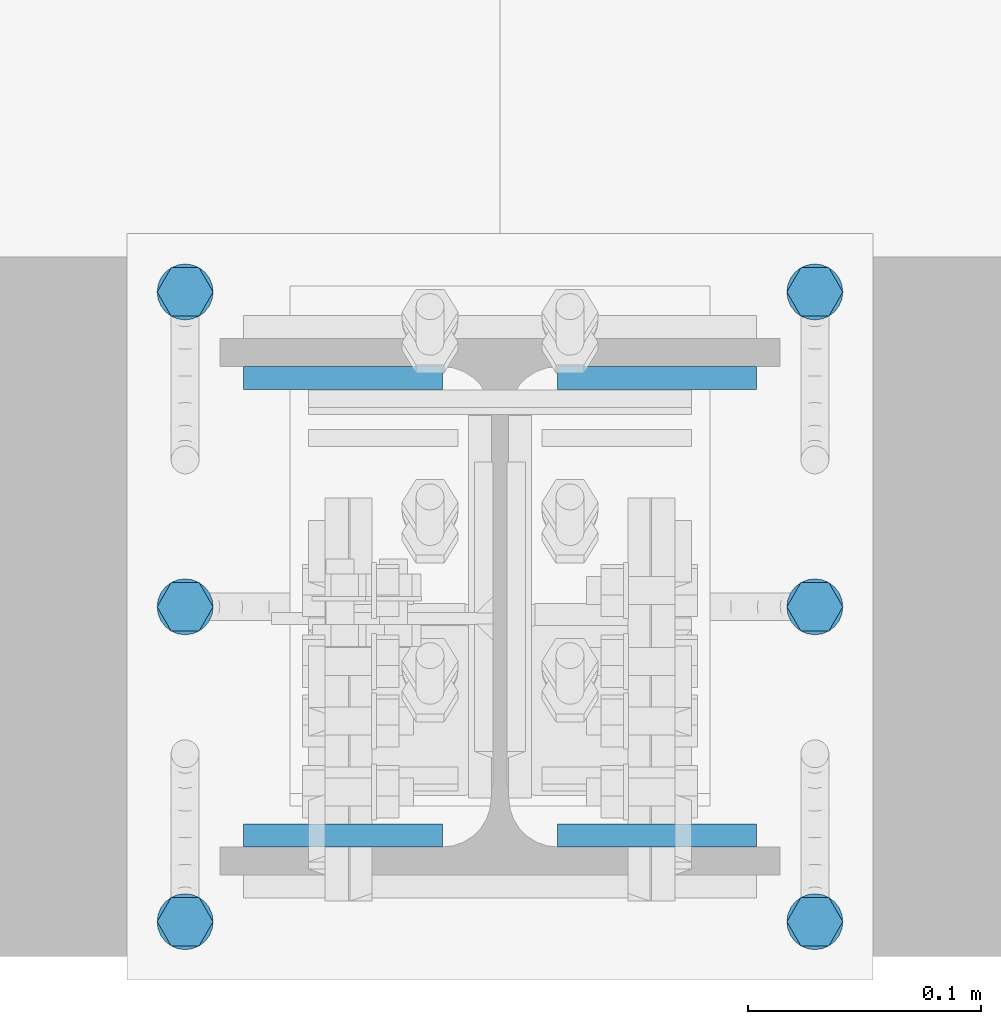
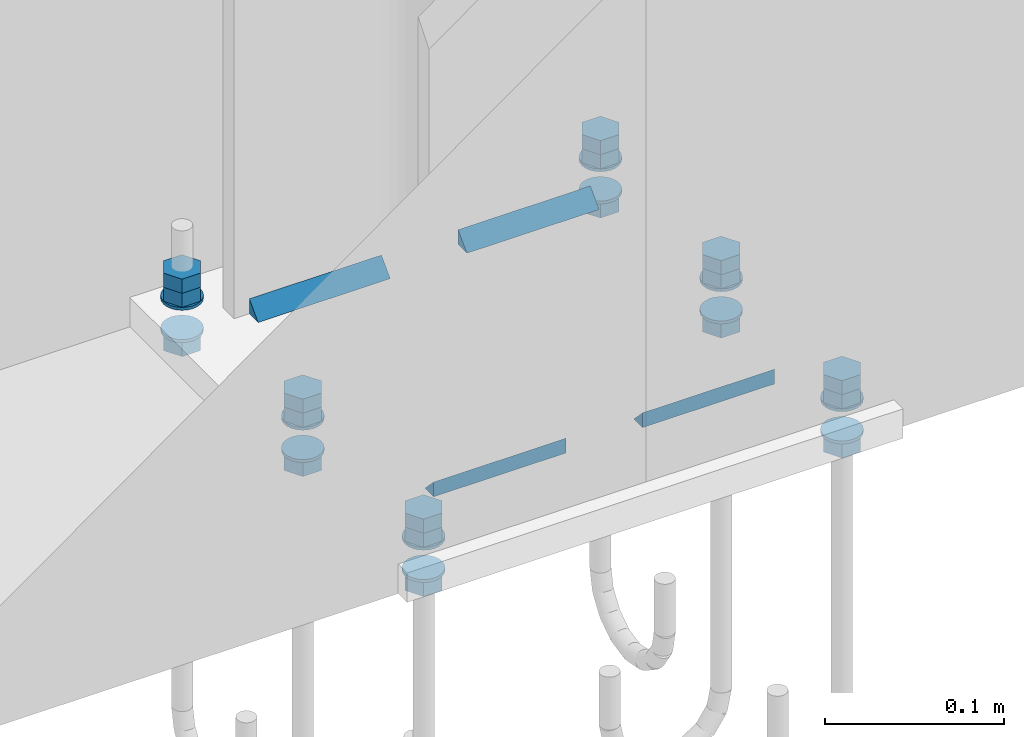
# One storey, part 25 of 72: 30 mechanical fasteners, 8 fasteners.
"""IFC4 building model written with IfcOpenShell, lengths in metres."""

from ifc_helpers import new_model, si_unit, frame, origin_with_axes, place, context, project, spatial, polyline, outline, extrude, type_object, element, save


model = new_model("IFC4")

# Units and contexts
model_context = context("Model", 3, precision=1e-05, world=origin_with_axes())
ifc_project = project(units=[si_unit("LENGTHUNIT", "METRE"), si_unit("AREAUNIT", "SQUARE_METRE"), si_unit("VOLUMEUNIT", "CUBIC_METRE"), si_unit("MASSUNIT", "GRAM", prefix="KILO"), si_unit("TIMEUNIT", "SECOND"), si_unit("PLANEANGLEUNIT", "RADIAN"), si_unit("SOLIDANGLEUNIT", "STERADIAN"), si_unit("THERMODYNAMICTEMPERATUREUNIT", "DEGREE_CELSIUS")], contexts=[model_context])

# Site, building, storey
placement_1 = place(None, origin_with_axes())
site = spatial("IfcSite", under=ifc_project, at=placement_1, Name="Italia", CompositionType="ELEMENT")
building = spatial("IfcBuilding", under=site, at=placement_1, Name="Uffici", CompositionType="ELEMENT")
storey = spatial("IfcBuildingStorey", under=building, at=placement_1, Name="Storey 0", CompositionType="ELEMENT", Elevation=0.0)

# Fasteners
fastener_type_1 = type_object("IfcFastenerType", Name="Collegamenti 0001_0101 0002_0102 0003_0103 0004_0104 0005_0105 0011_0111 0012_0112 0013_0113 0014_0114 0015_0115", PredefinedType="WELD")
placement_2 = place(placement_1, origin_with_axes())
fastener_1_placement = place(placement_2, origin_with_axes())
element("IfcFastener", 1, at=fastener_1_placement, inside=storey, type_object=fastener_type_1, Name="Collegamenti 0001_0101 0002_0102 0003_0103 0004_0104 0005_0105 0011_0111 0012_0112 0013_0113 0014_0114 0015_0115", context=model_context, shape_type="SweptSolid", body=[
    extrude(outline(polyline([(0.0, 0.0), (0.00986816, 0.0101734), (0.00986816, 0.0), (0.0, 0.0)])), frame((3.2297, 0.0931818, 0.01995), z_axis=(1.0, -8.7294403e-08, 0.0), x_axis=(8.7294403e-08, 1.0, 0.0)), (0.0, 0.0, 1.0), 0.08535),
])
fastener_type_2 = type_object("IfcFastenerType", Name="Collegamenti 0001_0101 0002_0102 0003_0103 0004_0104 0005_0105 0011_0111 0012_0112 0013_0113 0014_0114 0015_0115", PredefinedType="WELD")
fastener_2_placement = place(placement_2, origin_with_axes())
element("IfcFastener", 2, at=fastener_2_placement, inside=storey, type_object=fastener_type_2, Name="Collegamenti 0001_0101 0002_0102 0003_0103 0004_0104 0005_0105 0011_0111 0012_0112 0013_0113 0014_0114 0015_0115", context=model_context, shape_type="SweptSolid", body=[
    extrude(outline(polyline([(0.0, 0.0), (0.00986816, 0.0101734), (0.00986816, 0.0), (0.0, 0.0)])), frame((3.31505, -0.0931818, 0.01995), z_axis=(-1.0, 8.7294403e-08, 0.0), x_axis=(-8.7294403e-08, -1.0, 0.0)), (0.0, 0.0, 1.0), 0.08535),
])
fastener_type_3 = type_object("IfcFastenerType", Name="Collegamenti 0001_0101 0002_0102 0003_0103 0004_0104 0005_0105 0011_0111 0012_0112 0013_0113 0014_0114 0015_0115", PredefinedType="WELD")
fastener_3_placement = place(placement_2, origin_with_axes())
element("IfcFastener", 3, at=fastener_3_placement, inside=storey, type_object=fastener_type_3, Name="Collegamenti 0001_0101 0002_0102 0003_0103 0004_0104 0005_0105 0011_0111 0012_0112 0013_0113 0014_0114 0015_0115", context=model_context, shape_type="SweptSolid", body=[
    extrude(outline(polyline([(0.0, 0.0), (0.00986816, 0.0101734), (0.00986816, 0.0), (0.0, 0.0)])), frame((3.1803, -0.0931818, 0.01995), z_axis=(-1.0, 8.7294403e-08, 0.0), x_axis=(-8.7294403e-08, -1.0, 0.0)), (0.0, 0.0, 1.0), 0.08535),
])
fastener_type_4 = type_object("IfcFastenerType", Name="Collegamenti 0001_0101 0002_0102 0003_0103 0004_0104 0005_0105 0011_0111 0012_0112 0013_0113 0014_0114 0015_0115", PredefinedType="WELD")
fastener_4_placement = place(placement_2, origin_with_axes())
element("IfcFastener", 4, at=fastener_4_placement, inside=storey, type_object=fastener_type_4, Name="Collegamenti 0001_0101 0002_0102 0003_0103 0004_0104 0005_0105 0011_0111 0012_0112 0013_0113 0014_0114 0015_0115", context=model_context, shape_type="SweptSolid", body=[
    extrude(outline(polyline([(0.0, 0.0), (0.00986816, 0.0101734), (0.00986816, 0.0), (0.0, 0.0)])), frame((3.09495, 0.0931819, 0.01995), z_axis=(1.0, -8.7294403e-08, 0.0), x_axis=(8.7294403e-08, 1.0, 0.0)), (0.0, 0.0, 1.0), 0.08535),
])
fastener_type_5 = type_object("IfcFastenerType", Name="Collegamenti 0001_0101 0002_0102 0003_0103 0004_0104 0005_0105 0011_0111 0012_0112 0013_0113 0014_0114 0015_0115", PredefinedType="WELD")
fastener_5_placement = place(placement_2, origin_with_axes())
element("IfcFastener", 5, at=fastener_5_placement, inside=storey, type_object=fastener_type_5, Name="Collegamenti 0001_0101 0002_0102 0003_0103 0004_0104 0005_0105 0011_0111 0012_0112 0013_0113 0014_0114 0015_0115", context=model_context, shape_type="SweptSolid", body=[
    extrude(outline(polyline([(0.0, 0.0), (0.00986816, 0.0101734), (0.00986816, 0.0), (0.0, 0.0)])), frame((3.2297, 0.0931818, 0.01995), z_axis=(1.0, -8.7294403e-08, 0.0), x_axis=(8.7294403e-08, 1.0, 0.0)), (0.0, 0.0, 1.0), 0.08535),
])
fastener_type_6 = type_object("IfcFastenerType", Name="Collegamenti 0001_0101 0002_0102 0003_0103 0004_0104 0005_0105 0011_0111 0012_0112 0013_0113 0014_0114 0015_0115", PredefinedType="WELD")
fastener_6_placement = place(placement_2, origin_with_axes())
element("IfcFastener", 6, at=fastener_6_placement, inside=storey, type_object=fastener_type_6, Name="Collegamenti 0001_0101 0002_0102 0003_0103 0004_0104 0005_0105 0011_0111 0012_0112 0013_0113 0014_0114 0015_0115", context=model_context, shape_type="SweptSolid", body=[
    extrude(outline(polyline([(0.0, 0.0), (0.00986816, 0.0101734), (0.00986816, 0.0), (0.0, 0.0)])), frame((3.31505, -0.0931818, 0.01995), z_axis=(-1.0, 8.7294403e-08, 0.0), x_axis=(-8.7294403e-08, -1.0, 0.0)), (0.0, 0.0, 1.0), 0.08535),
])
fastener_type_7 = type_object("IfcFastenerType", Name="Collegamenti 0001_0101 0002_0102 0003_0103 0004_0104 0005_0105 0011_0111 0012_0112 0013_0113 0014_0114 0015_0115", PredefinedType="WELD")
fastener_7_placement = place(placement_2, origin_with_axes())
element("IfcFastener", 7, at=fastener_7_placement, inside=storey, type_object=fastener_type_7, Name="Collegamenti 0001_0101 0002_0102 0003_0103 0004_0104 0005_0105 0011_0111 0012_0112 0013_0113 0014_0114 0015_0115", context=model_context, shape_type="SweptSolid", body=[
    extrude(outline(polyline([(0.0, 0.0), (0.00986816, 0.0101734), (0.00986816, 0.0), (0.0, 0.0)])), frame((3.1803, -0.0931818, 0.01995), z_axis=(-1.0, 8.7294403e-08, 0.0), x_axis=(-8.7294403e-08, -1.0, 0.0)), (0.0, 0.0, 1.0), 0.08535),
])
fastener_type_8 = type_object("IfcFastenerType", Name="Collegamenti 0001_0101 0002_0102 0003_0103 0004_0104 0005_0105 0011_0111 0012_0112 0013_0113 0014_0114 0015_0115", PredefinedType="WELD")
fastener_8_placement = place(placement_2, origin_with_axes())
element("IfcFastener", 8, at=fastener_8_placement, inside=storey, type_object=fastener_type_8, Name="Collegamenti 0001_0101 0002_0102 0003_0103 0004_0104 0005_0105 0011_0111 0012_0112 0013_0113 0014_0114 0015_0115", context=model_context, shape_type="SweptSolid", body=[
    extrude(outline(polyline([(0.0, 0.0), (0.00986816, 0.0101734), (0.00986816, 0.0), (0.0, 0.0)])), frame((3.09495, 0.0931819, 0.01995), z_axis=(1.0, -8.7294403e-08, 0.0), x_axis=(8.7294403e-08, 1.0, 0.0)), (0.0, 0.0, 1.0), 0.08535),
])

# Mechanical fasteners
mechanical_fastener_type_1 = type_object("IfcMechanicalFastenerType", Name="Collegamenti 0001_0101 0002_0102 0003_0103 0004_0104 0005_0105 0011_0111 0012_0112 0013_0113 0014_0114 0015_0115", PredefinedType="BOLT")
mechanical_fastener_1_placement = place(placement_2, origin_with_axes())
element("IfcMechanicalFastener", 9, at=mechanical_fastener_1_placement, inside=storey, type_object=mechanical_fastener_type_1, Name="Collegamenti 0001_0101 0002_0102 0003_0103 0004_0104 0005_0105 0011_0111 0012_0112 0013_0113 0014_0114 0015_0115", NominalDiameter=0.012, context=model_context, shape_type="SweptSolid", body=[
    extrude(outline(polyline([(0.0, 0.0), (0.0, 0.0120001), (0.0103923, 0.0180001), (0.0207846, 0.0120001), (0.0207846, 0.0), (0.0103923, -0.00600004), (0.0, 0.0)])), frame((3.076, -0.145392, 0.022), z_axis=(0.0, 0.0, 1.0), x_axis=(0.0, 1.0, 0.0)), (0.0, 0.0, 1.0), 0.0096),
])
mechanical_fastener_type_2 = type_object("IfcMechanicalFastenerType", Name="Collegamenti 0001_0101 0002_0102 0003_0103 0004_0104 0005_0105 0011_0111 0012_0112 0013_0113 0014_0114 0015_0115", PredefinedType="BOLT")
mechanical_fastener_2_placement = place(placement_2, origin_with_axes())
element("IfcMechanicalFastener", 10, at=mechanical_fastener_2_placement, inside=storey, type_object=mechanical_fastener_type_2, Name="Collegamenti 0001_0101 0002_0102 0003_0103 0004_0104 0005_0105 0011_0111 0012_0112 0013_0113 0014_0114 0015_0115", NominalDiameter=0.012, context=model_context, shape_type="SweptSolid", body=[
    extrude(outline(polyline([(0.0, 0.0), (0.0, 0.0120001), (0.0103923, 0.0180001), (0.0207846, 0.0120001), (0.0207846, 0.0), (0.0103923, -0.00600004), (0.0, 0.0)])), frame((3.076, -0.145392, 0.0316), z_axis=(0.0, 0.0, 1.0), x_axis=(0.0, 1.0, 0.0)), (0.0, 0.0, 1.0), 0.0096),
])
mechanical_fastener_type_3 = type_object("IfcMechanicalFastenerType", Name="Collegamenti 0001_0101 0002_0102 0003_0103 0004_0104 0005_0105 0011_0111 0012_0112 0013_0113 0014_0114 0015_0115", PredefinedType="BOLT")
mechanical_fastener_3_placement = place(placement_2, origin_with_axes())
element("IfcMechanicalFastener", 11, at=mechanical_fastener_3_placement, inside=storey, type_object=mechanical_fastener_type_3, Name="Collegamenti 0001_0101 0002_0102 0003_0103 0004_0104 0005_0105 0011_0111 0012_0112 0013_0113 0014_0114 0015_0115", NominalDiameter=0.012, context=model_context, shape_type="SweptSolid", body=[
    extrude(outline(polyline([(0.0, 0.0), (0.0, 0.0120001), (0.0103923, 0.0180001), (0.0207846, 0.0120001), (0.0207846, 0.0), (0.0103923, -0.00600004), (0.0, 0.0)])), frame((3.076, -0.145392, -0.0116), z_axis=(0.0, 0.0, 1.0), x_axis=(0.0, 1.0, 0.0)), (0.0, 0.0, 1.0), 0.0096),
])
mechanical_fastener_type_4 = type_object("IfcMechanicalFastenerType", Name="Collegamenti 0001_0101 0002_0102 0003_0103 0004_0104 0005_0105 0011_0111 0012_0112 0013_0113 0014_0114 0015_0115", PredefinedType="BOLT")
mechanical_fastener_4_placement = place(placement_2, origin_with_axes())
element("IfcMechanicalFastener", 12, at=mechanical_fastener_4_placement, inside=storey, type_object=mechanical_fastener_type_4, Name="Collegamenti 0001_0101 0002_0102 0003_0103 0004_0104 0005_0105 0011_0111 0012_0112 0013_0113 0014_0114 0015_0115", NominalDiameter=0.024, context=model_context, shape_type="SweptSolid", body=[
    extrude(outline(polyline([(0.0, 0.0), (-0.000408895, -0.00310588), (-0.00160769, -0.00600004), (-0.00351471, -0.00848532), (-0.006, -0.0103922), (-0.00889417, -0.0115912), (-0.012, -0.0120001), (-0.0151058, -0.0115912), (-0.018, -0.0103922), (-0.0204853, -0.00848532), (-0.0223923, -0.00600004), (-0.0235911, -0.00310588), (-0.024, 0.0), (-0.0235911, 0.00310588), (-0.0223923, 0.00600004), (-0.0204853, 0.00848532), (-0.018, 0.0103922), (-0.0151058, 0.0115912), (-0.012, 0.0120001), (-0.00889417, 0.0115912), (-0.006, 0.0103922), (-0.00351471, 0.00848532), (-0.00160769, 0.00600004), (-0.000408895, 0.00310588), (0.0, 0.0)])), frame((3.07, -0.123, 0.02), z_axis=(0.0, 0.0, 1.0), x_axis=(0.0, 1.0, 0.0)), (0.0, 0.0, 1.0), 0.002),
])
mechanical_fastener_type_5 = type_object("IfcMechanicalFastenerType", Name="Collegamenti 0001_0101 0002_0102 0003_0103 0004_0104 0005_0105 0011_0111 0012_0112 0013_0113 0014_0114 0015_0115", PredefinedType="BOLT")
mechanical_fastener_5_placement = place(placement_2, origin_with_axes())
element("IfcMechanicalFastener", 13, at=mechanical_fastener_5_placement, inside=storey, type_object=mechanical_fastener_type_5, Name="Collegamenti 0001_0101 0002_0102 0003_0103 0004_0104 0005_0105 0011_0111 0012_0112 0013_0113 0014_0114 0015_0115", NominalDiameter=0.024, context=model_context, shape_type="SweptSolid", body=[
    extrude(outline(polyline([(0.0, 0.0), (-0.000408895, -0.00310588), (-0.00160769, -0.00600004), (-0.00351471, -0.00848532), (-0.006, -0.0103922), (-0.00889417, -0.0115912), (-0.012, -0.0120001), (-0.0151058, -0.0115912), (-0.018, -0.0103922), (-0.0204853, -0.00848532), (-0.0223923, -0.00600004), (-0.0235911, -0.00310588), (-0.024, 0.0), (-0.0235911, 0.00310588), (-0.0223923, 0.00600004), (-0.0204853, 0.00848532), (-0.018, 0.0103922), (-0.0151058, 0.0115912), (-0.012, 0.0120001), (-0.00889417, 0.0115912), (-0.006, 0.0103922), (-0.00351471, 0.00848532), (-0.00160769, 0.00600004), (-0.000408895, 0.00310588), (0.0, 0.0)])), frame((3.07, -0.123, -0.002), z_axis=(0.0, 0.0, 1.0), x_axis=(0.0, 1.0, 0.0)), (0.0, 0.0, 1.0), 0.002),
])
mechanical_fastener_type_6 = type_object("IfcMechanicalFastenerType", Name="Collegamenti 0001_0101 0002_0102 0003_0103 0004_0104 0005_0105 0011_0111 0012_0112 0013_0113 0014_0114 0015_0115", PredefinedType="BOLT")
mechanical_fastener_6_placement = place(placement_2, origin_with_axes())
element("IfcMechanicalFastener", 14, at=mechanical_fastener_6_placement, inside=storey, type_object=mechanical_fastener_type_6, Name="Collegamenti 0001_0101 0002_0102 0003_0103 0004_0104 0005_0105 0011_0111 0012_0112 0013_0113 0014_0114 0015_0115", NominalDiameter=0.012, context=model_context, shape_type="SweptSolid", body=[
    extrude(outline(polyline([(0.0, 0.0), (0.0, 0.0120001), (0.0103923, 0.0180001), (0.0207846, 0.0120001), (0.0207846, 0.0), (0.0103923, -0.00600004), (0.0, 0.0)])), frame((3.346, -0.145392, 0.022), z_axis=(0.0, 0.0, 1.0), x_axis=(0.0, 1.0, 0.0)), (0.0, 0.0, 1.0), 0.0096),
])
mechanical_fastener_type_7 = type_object("IfcMechanicalFastenerType", Name="Collegamenti 0001_0101 0002_0102 0003_0103 0004_0104 0005_0105 0011_0111 0012_0112 0013_0113 0014_0114 0015_0115", PredefinedType="BOLT")
mechanical_fastener_7_placement = place(placement_2, origin_with_axes())
element("IfcMechanicalFastener", 15, at=mechanical_fastener_7_placement, inside=storey, type_object=mechanical_fastener_type_7, Name="Collegamenti 0001_0101 0002_0102 0003_0103 0004_0104 0005_0105 0011_0111 0012_0112 0013_0113 0014_0114 0015_0115", NominalDiameter=0.012, context=model_context, shape_type="SweptSolid", body=[
    extrude(outline(polyline([(0.0, 0.0), (0.0, 0.0120001), (0.0103923, 0.0180001), (0.0207846, 0.0120001), (0.0207846, 0.0), (0.0103923, -0.00600004), (0.0, 0.0)])), frame((3.346, -0.145392, 0.0316), z_axis=(0.0, 0.0, 1.0), x_axis=(0.0, 1.0, 0.0)), (0.0, 0.0, 1.0), 0.0096),
])
mechanical_fastener_type_8 = type_object("IfcMechanicalFastenerType", Name="Collegamenti 0001_0101 0002_0102 0003_0103 0004_0104 0005_0105 0011_0111 0012_0112 0013_0113 0014_0114 0015_0115", PredefinedType="BOLT")
mechanical_fastener_8_placement = place(placement_2, origin_with_axes())
element("IfcMechanicalFastener", 16, at=mechanical_fastener_8_placement, inside=storey, type_object=mechanical_fastener_type_8, Name="Collegamenti 0001_0101 0002_0102 0003_0103 0004_0104 0005_0105 0011_0111 0012_0112 0013_0113 0014_0114 0015_0115", NominalDiameter=0.012, context=model_context, shape_type="SweptSolid", body=[
    extrude(outline(polyline([(0.0, 0.0), (0.0, 0.0120001), (0.0103923, 0.0180001), (0.0207846, 0.0120001), (0.0207846, 0.0), (0.0103923, -0.00600004), (0.0, 0.0)])), frame((3.346, -0.145392, -0.0116), z_axis=(0.0, 0.0, 1.0), x_axis=(0.0, 1.0, 0.0)), (0.0, 0.0, 1.0), 0.0096),
])
mechanical_fastener_type_9 = type_object("IfcMechanicalFastenerType", Name="Collegamenti 0001_0101 0002_0102 0003_0103 0004_0104 0005_0105 0011_0111 0012_0112 0013_0113 0014_0114 0015_0115", PredefinedType="BOLT")
mechanical_fastener_9_placement = place(placement_2, origin_with_axes())
element("IfcMechanicalFastener", 17, at=mechanical_fastener_9_placement, inside=storey, type_object=mechanical_fastener_type_9, Name="Collegamenti 0001_0101 0002_0102 0003_0103 0004_0104 0005_0105 0011_0111 0012_0112 0013_0113 0014_0114 0015_0115", NominalDiameter=0.024, context=model_context, shape_type="SweptSolid", body=[
    extrude(outline(polyline([(0.0, 0.0), (-0.000408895, -0.00310588), (-0.00160769, -0.00600004), (-0.00351471, -0.00848532), (-0.006, -0.0103922), (-0.00889417, -0.0115912), (-0.012, -0.0120001), (-0.0151058, -0.0115912), (-0.018, -0.0103922), (-0.0204853, -0.00848532), (-0.0223923, -0.00600004), (-0.0235911, -0.00310588), (-0.024, 0.0), (-0.0235911, 0.00310588), (-0.0223923, 0.00600004), (-0.0204853, 0.00848532), (-0.018, 0.0103922), (-0.0151058, 0.0115912), (-0.012, 0.0120001), (-0.00889417, 0.0115912), (-0.006, 0.0103922), (-0.00351471, 0.00848532), (-0.00160769, 0.00600004), (-0.000408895, 0.00310588), (0.0, 0.0)])), frame((3.34, -0.123, 0.02), z_axis=(0.0, 0.0, 1.0), x_axis=(0.0, 1.0, 0.0)), (0.0, 0.0, 1.0), 0.002),
])
mechanical_fastener_type_10 = type_object("IfcMechanicalFastenerType", Name="Collegamenti 0001_0101 0002_0102 0003_0103 0004_0104 0005_0105 0011_0111 0012_0112 0013_0113 0014_0114 0015_0115", PredefinedType="BOLT")
mechanical_fastener_10_placement = place(placement_2, origin_with_axes())
element("IfcMechanicalFastener", 18, at=mechanical_fastener_10_placement, inside=storey, type_object=mechanical_fastener_type_10, Name="Collegamenti 0001_0101 0002_0102 0003_0103 0004_0104 0005_0105 0011_0111 0012_0112 0013_0113 0014_0114 0015_0115", NominalDiameter=0.024, context=model_context, shape_type="SweptSolid", body=[
    extrude(outline(polyline([(0.0, 0.0), (-0.000408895, -0.00310588), (-0.00160769, -0.00600004), (-0.00351471, -0.00848532), (-0.006, -0.0103922), (-0.00889417, -0.0115912), (-0.012, -0.0120001), (-0.0151058, -0.0115912), (-0.018, -0.0103922), (-0.0204853, -0.00848532), (-0.0223923, -0.00600004), (-0.0235911, -0.00310588), (-0.024, 0.0), (-0.0235911, 0.00310588), (-0.0223923, 0.00600004), (-0.0204853, 0.00848532), (-0.018, 0.0103922), (-0.0151058, 0.0115912), (-0.012, 0.0120001), (-0.00889417, 0.0115912), (-0.006, 0.0103922), (-0.00351471, 0.00848532), (-0.00160769, 0.00600004), (-0.000408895, 0.00310588), (0.0, 0.0)])), frame((3.34, -0.123, -0.002), z_axis=(0.0, 0.0, 1.0), x_axis=(0.0, 1.0, 0.0)), (0.0, 0.0, 1.0), 0.002),
])
mechanical_fastener_type_11 = type_object("IfcMechanicalFastenerType", Name="Collegamenti 0001_0101 0002_0102 0003_0103 0004_0104 0005_0105 0011_0111 0012_0112 0013_0113 0014_0114 0015_0115", PredefinedType="BOLT")
mechanical_fastener_11_placement = place(placement_2, origin_with_axes())
element("IfcMechanicalFastener", 19, at=mechanical_fastener_11_placement, inside=storey, type_object=mechanical_fastener_type_11, Name="Collegamenti 0001_0101 0002_0102 0003_0103 0004_0104 0005_0105 0011_0111 0012_0112 0013_0113 0014_0114 0015_0115", NominalDiameter=0.012, context=model_context, shape_type="SweptSolid", body=[
    extrude(outline(polyline([(0.0, 0.0), (0.0, 0.0120001), (0.0103923, 0.0180001), (0.0207846, 0.0120001), (0.0207846, 0.0), (0.0103923, -0.00600004), (0.0, 0.0)])), frame((3.076, -0.0103923, 0.022), z_axis=(0.0, 0.0, 1.0), x_axis=(0.0, 1.0, 0.0)), (0.0, 0.0, 1.0), 0.0096),
])
mechanical_fastener_type_12 = type_object("IfcMechanicalFastenerType", Name="Collegamenti 0001_0101 0002_0102 0003_0103 0004_0104 0005_0105 0011_0111 0012_0112 0013_0113 0014_0114 0015_0115", PredefinedType="BOLT")
mechanical_fastener_12_placement = place(placement_2, origin_with_axes())
element("IfcMechanicalFastener", 20, at=mechanical_fastener_12_placement, inside=storey, type_object=mechanical_fastener_type_12, Name="Collegamenti 0001_0101 0002_0102 0003_0103 0004_0104 0005_0105 0011_0111 0012_0112 0013_0113 0014_0114 0015_0115", NominalDiameter=0.012, context=model_context, shape_type="SweptSolid", body=[
    extrude(outline(polyline([(0.0, 0.0), (0.0, 0.0120001), (0.0103923, 0.0180001), (0.0207846, 0.0120001), (0.0207846, 0.0), (0.0103923, -0.00600004), (0.0, 0.0)])), frame((3.076, -0.0103923, 0.0316), z_axis=(0.0, 0.0, 1.0), x_axis=(0.0, 1.0, 0.0)), (0.0, 0.0, 1.0), 0.0096),
])
mechanical_fastener_type_13 = type_object("IfcMechanicalFastenerType", Name="Collegamenti 0001_0101 0002_0102 0003_0103 0004_0104 0005_0105 0011_0111 0012_0112 0013_0113 0014_0114 0015_0115", PredefinedType="BOLT")
mechanical_fastener_13_placement = place(placement_2, origin_with_axes())
element("IfcMechanicalFastener", 21, at=mechanical_fastener_13_placement, inside=storey, type_object=mechanical_fastener_type_13, Name="Collegamenti 0001_0101 0002_0102 0003_0103 0004_0104 0005_0105 0011_0111 0012_0112 0013_0113 0014_0114 0015_0115", NominalDiameter=0.012, context=model_context, shape_type="SweptSolid", body=[
    extrude(outline(polyline([(0.0, 0.0), (0.0, 0.0120001), (0.0103923, 0.0180001), (0.0207846, 0.0120001), (0.0207846, 0.0), (0.0103923, -0.00600004), (0.0, 0.0)])), frame((3.076, -0.0103923, -0.0116), z_axis=(0.0, 0.0, 1.0), x_axis=(0.0, 1.0, 0.0)), (0.0, 0.0, 1.0), 0.0096),
])
mechanical_fastener_type_14 = type_object("IfcMechanicalFastenerType", Name="Collegamenti 0001_0101 0002_0102 0003_0103 0004_0104 0005_0105 0011_0111 0012_0112 0013_0113 0014_0114 0015_0115", PredefinedType="BOLT")
mechanical_fastener_14_placement = place(placement_2, origin_with_axes())
element("IfcMechanicalFastener", 22, at=mechanical_fastener_14_placement, inside=storey, type_object=mechanical_fastener_type_14, Name="Collegamenti 0001_0101 0002_0102 0003_0103 0004_0104 0005_0105 0011_0111 0012_0112 0013_0113 0014_0114 0015_0115", NominalDiameter=0.024, context=model_context, shape_type="SweptSolid", body=[
    extrude(outline(polyline([(0.0, 0.0), (-0.00040889, -0.00310588), (-0.0016077, -0.00600004), (-0.00351472, -0.00848532), (-0.006, -0.0103922), (-0.00889417, -0.0115912), (-0.012, -0.0120001), (-0.0151058, -0.0115912), (-0.018, -0.0103922), (-0.0204853, -0.00848532), (-0.0223923, -0.00600004), (-0.0235911, -0.00310588), (-0.024, 0.0), (-0.0235911, 0.00310588), (-0.0223923, 0.00600004), (-0.0204853, 0.00848532), (-0.018, 0.0103922), (-0.0151058, 0.0115912), (-0.012, 0.0120001), (-0.00889417, 0.0115912), (-0.006, 0.0103922), (-0.00351472, 0.00848532), (-0.00160769, 0.00600004), (-0.00040889, 0.00310588), (0.0, 0.0)])), frame((3.07, 0.012, 0.02), z_axis=(0.0, 0.0, 1.0), x_axis=(0.0, 1.0, 0.0)), (0.0, 0.0, 1.0), 0.002),
])
mechanical_fastener_type_15 = type_object("IfcMechanicalFastenerType", Name="Collegamenti 0001_0101 0002_0102 0003_0103 0004_0104 0005_0105 0011_0111 0012_0112 0013_0113 0014_0114 0015_0115", PredefinedType="BOLT")
mechanical_fastener_15_placement = place(placement_2, origin_with_axes())
element("IfcMechanicalFastener", 23, at=mechanical_fastener_15_placement, inside=storey, type_object=mechanical_fastener_type_15, Name="Collegamenti 0001_0101 0002_0102 0003_0103 0004_0104 0005_0105 0011_0111 0012_0112 0013_0113 0014_0114 0015_0115", NominalDiameter=0.024, context=model_context, shape_type="SweptSolid", body=[
    extrude(outline(polyline([(0.0, 0.0), (-0.00040889, -0.00310588), (-0.0016077, -0.00600004), (-0.00351472, -0.00848532), (-0.006, -0.0103922), (-0.00889417, -0.0115912), (-0.012, -0.0120001), (-0.0151058, -0.0115912), (-0.018, -0.0103922), (-0.0204853, -0.00848532), (-0.0223923, -0.00600004), (-0.0235911, -0.00310588), (-0.024, 0.0), (-0.0235911, 0.00310588), (-0.0223923, 0.00600004), (-0.0204853, 0.00848532), (-0.018, 0.0103922), (-0.0151058, 0.0115912), (-0.012, 0.0120001), (-0.00889417, 0.0115912), (-0.006, 0.0103922), (-0.00351472, 0.00848532), (-0.00160769, 0.00600004), (-0.00040889, 0.00310588), (0.0, 0.0)])), frame((3.07, 0.012, -0.002), z_axis=(0.0, 0.0, 1.0), x_axis=(0.0, 1.0, 0.0)), (0.0, 0.0, 1.0), 0.002),
])
mechanical_fastener_type_16 = type_object("IfcMechanicalFastenerType", Name="Collegamenti 0001_0101 0002_0102 0003_0103 0004_0104 0005_0105 0011_0111 0012_0112 0013_0113 0014_0114 0015_0115", PredefinedType="BOLT")
mechanical_fastener_16_placement = place(placement_2, origin_with_axes())
element("IfcMechanicalFastener", 24, at=mechanical_fastener_16_placement, inside=storey, type_object=mechanical_fastener_type_16, Name="Collegamenti 0001_0101 0002_0102 0003_0103 0004_0104 0005_0105 0011_0111 0012_0112 0013_0113 0014_0114 0015_0115", NominalDiameter=0.012, context=model_context, shape_type="SweptSolid", body=[
    extrude(outline(polyline([(0.0, 0.0), (0.0, 0.0120001), (0.0103923, 0.0180001), (0.0207846, 0.0120001), (0.0207846, 0.0), (0.0103923, -0.00600004), (0.0, 0.0)])), frame((3.346, -0.0103923, 0.022), z_axis=(0.0, 0.0, 1.0), x_axis=(0.0, 1.0, 0.0)), (0.0, 0.0, 1.0), 0.0096),
])
mechanical_fastener_type_17 = type_object("IfcMechanicalFastenerType", Name="Collegamenti 0001_0101 0002_0102 0003_0103 0004_0104 0005_0105 0011_0111 0012_0112 0013_0113 0014_0114 0015_0115", PredefinedType="BOLT")
mechanical_fastener_17_placement = place(placement_2, origin_with_axes())
element("IfcMechanicalFastener", 25, at=mechanical_fastener_17_placement, inside=storey, type_object=mechanical_fastener_type_17, Name="Collegamenti 0001_0101 0002_0102 0003_0103 0004_0104 0005_0105 0011_0111 0012_0112 0013_0113 0014_0114 0015_0115", NominalDiameter=0.012, context=model_context, shape_type="SweptSolid", body=[
    extrude(outline(polyline([(0.0, 0.0), (0.0, 0.0120001), (0.0103923, 0.0180001), (0.0207846, 0.0120001), (0.0207846, 0.0), (0.0103923, -0.00600004), (0.0, 0.0)])), frame((3.346, -0.0103923, 0.0316), z_axis=(0.0, 0.0, 1.0), x_axis=(0.0, 1.0, 0.0)), (0.0, 0.0, 1.0), 0.0096),
])
mechanical_fastener_type_18 = type_object("IfcMechanicalFastenerType", Name="Collegamenti 0001_0101 0002_0102 0003_0103 0004_0104 0005_0105 0011_0111 0012_0112 0013_0113 0014_0114 0015_0115", PredefinedType="BOLT")
mechanical_fastener_18_placement = place(placement_2, origin_with_axes())
element("IfcMechanicalFastener", 26, at=mechanical_fastener_18_placement, inside=storey, type_object=mechanical_fastener_type_18, Name="Collegamenti 0001_0101 0002_0102 0003_0103 0004_0104 0005_0105 0011_0111 0012_0112 0013_0113 0014_0114 0015_0115", NominalDiameter=0.012, context=model_context, shape_type="SweptSolid", body=[
    extrude(outline(polyline([(0.0, 0.0), (0.0, 0.0120001), (0.0103923, 0.0180001), (0.0207846, 0.0120001), (0.0207846, 0.0), (0.0103923, -0.00600004), (0.0, 0.0)])), frame((3.346, -0.0103923, -0.0116), z_axis=(0.0, 0.0, 1.0), x_axis=(0.0, 1.0, 0.0)), (0.0, 0.0, 1.0), 0.0096),
])
mechanical_fastener_type_19 = type_object("IfcMechanicalFastenerType", Name="Collegamenti 0001_0101 0002_0102 0003_0103 0004_0104 0005_0105 0011_0111 0012_0112 0013_0113 0014_0114 0015_0115", PredefinedType="BOLT")
mechanical_fastener_19_placement = place(placement_2, origin_with_axes())
element("IfcMechanicalFastener", 27, at=mechanical_fastener_19_placement, inside=storey, type_object=mechanical_fastener_type_19, Name="Collegamenti 0001_0101 0002_0102 0003_0103 0004_0104 0005_0105 0011_0111 0012_0112 0013_0113 0014_0114 0015_0115", NominalDiameter=0.024, context=model_context, shape_type="SweptSolid", body=[
    extrude(outline(polyline([(0.0, 0.0), (-0.00040889, -0.00310588), (-0.0016077, -0.00600004), (-0.00351472, -0.00848532), (-0.006, -0.0103922), (-0.00889417, -0.0115912), (-0.012, -0.0120001), (-0.0151058, -0.0115912), (-0.018, -0.0103922), (-0.0204853, -0.00848532), (-0.0223923, -0.00600004), (-0.0235911, -0.00310588), (-0.024, 0.0), (-0.0235911, 0.00310588), (-0.0223923, 0.00600004), (-0.0204853, 0.00848532), (-0.018, 0.0103922), (-0.0151058, 0.0115912), (-0.012, 0.0120001), (-0.00889417, 0.0115912), (-0.006, 0.0103922), (-0.00351472, 0.00848532), (-0.00160769, 0.00600004), (-0.00040889, 0.00310588), (0.0, 0.0)])), frame((3.34, 0.012, 0.02), z_axis=(0.0, 0.0, 1.0), x_axis=(0.0, 1.0, 0.0)), (0.0, 0.0, 1.0), 0.002),
])
mechanical_fastener_type_20 = type_object("IfcMechanicalFastenerType", Name="Collegamenti 0001_0101 0002_0102 0003_0103 0004_0104 0005_0105 0011_0111 0012_0112 0013_0113 0014_0114 0015_0115", PredefinedType="BOLT")
mechanical_fastener_20_placement = place(placement_2, origin_with_axes())
element("IfcMechanicalFastener", 28, at=mechanical_fastener_20_placement, inside=storey, type_object=mechanical_fastener_type_20, Name="Collegamenti 0001_0101 0002_0102 0003_0103 0004_0104 0005_0105 0011_0111 0012_0112 0013_0113 0014_0114 0015_0115", NominalDiameter=0.024, context=model_context, shape_type="SweptSolid", body=[
    extrude(outline(polyline([(0.0, 0.0), (-0.00040889, -0.00310588), (-0.0016077, -0.00600004), (-0.00351472, -0.00848532), (-0.006, -0.0103922), (-0.00889417, -0.0115912), (-0.012, -0.0120001), (-0.0151058, -0.0115912), (-0.018, -0.0103922), (-0.0204853, -0.00848532), (-0.0223923, -0.00600004), (-0.0235911, -0.00310588), (-0.024, 0.0), (-0.0235911, 0.00310588), (-0.0223923, 0.00600004), (-0.0204853, 0.00848532), (-0.018, 0.0103922), (-0.0151058, 0.0115912), (-0.012, 0.0120001), (-0.00889417, 0.0115912), (-0.006, 0.0103922), (-0.00351472, 0.00848532), (-0.00160769, 0.00600004), (-0.00040889, 0.00310588), (0.0, 0.0)])), frame((3.34, 0.012, -0.002), z_axis=(0.0, 0.0, 1.0), x_axis=(0.0, 1.0, 0.0)), (0.0, 0.0, 1.0), 0.002),
])
mechanical_fastener_type_21 = type_object("IfcMechanicalFastenerType", Name="Collegamenti 0001_0101 0002_0102 0003_0103 0004_0104 0005_0105 0011_0111 0012_0112 0013_0113 0014_0114 0015_0115", PredefinedType="BOLT")
mechanical_fastener_21_placement = place(placement_2, origin_with_axes())
element("IfcMechanicalFastener", 29, at=mechanical_fastener_21_placement, inside=storey, type_object=mechanical_fastener_type_21, Name="Collegamenti 0001_0101 0002_0102 0003_0103 0004_0104 0005_0105 0011_0111 0012_0112 0013_0113 0014_0114 0015_0115", NominalDiameter=0.012, context=model_context, shape_type="SweptSolid", body=[
    extrude(outline(polyline([(0.0, 0.0), (0.0, 0.0120001), (0.0103923, 0.0180001), (0.0207846, 0.0120001), (0.0207846, 0.0), (0.0103923, -0.00600004), (0.0, 0.0)])), frame((3.076, 0.124608, 0.022), z_axis=(0.0, 0.0, 1.0), x_axis=(0.0, 1.0, 0.0)), (0.0, 0.0, 1.0), 0.0096),
])
mechanical_fastener_type_22 = type_object("IfcMechanicalFastenerType", Name="Collegamenti 0001_0101 0002_0102 0003_0103 0004_0104 0005_0105 0011_0111 0012_0112 0013_0113 0014_0114 0015_0115", PredefinedType="BOLT")
mechanical_fastener_22_placement = place(placement_2, origin_with_axes())
element("IfcMechanicalFastener", 30, at=mechanical_fastener_22_placement, inside=storey, type_object=mechanical_fastener_type_22, Name="Collegamenti 0001_0101 0002_0102 0003_0103 0004_0104 0005_0105 0011_0111 0012_0112 0013_0113 0014_0114 0015_0115", NominalDiameter=0.012, context=model_context, shape_type="SweptSolid", body=[
    extrude(outline(polyline([(0.0, 0.0), (0.0, 0.0120001), (0.0103923, 0.0180001), (0.0207846, 0.0120001), (0.0207846, 0.0), (0.0103923, -0.00600004), (0.0, 0.0)])), frame((3.076, 0.124608, 0.0316), z_axis=(0.0, 0.0, 1.0), x_axis=(0.0, 1.0, 0.0)), (0.0, 0.0, 1.0), 0.0096),
])
mechanical_fastener_type_23 = type_object("IfcMechanicalFastenerType", Name="Collegamenti 0001_0101 0002_0102 0003_0103 0004_0104 0005_0105 0011_0111 0012_0112 0013_0113 0014_0114 0015_0115", PredefinedType="BOLT")
mechanical_fastener_23_placement = place(placement_2, origin_with_axes())
element("IfcMechanicalFastener", 31, at=mechanical_fastener_23_placement, inside=storey, type_object=mechanical_fastener_type_23, Name="Collegamenti 0001_0101 0002_0102 0003_0103 0004_0104 0005_0105 0011_0111 0012_0112 0013_0113 0014_0114 0015_0115", NominalDiameter=0.012, context=model_context, shape_type="SweptSolid", body=[
    extrude(outline(polyline([(0.0, 0.0), (0.0, 0.0120001), (0.0103923, 0.0180001), (0.0207846, 0.0120001), (0.0207846, 0.0), (0.0103923, -0.00600004), (0.0, 0.0)])), frame((3.076, 0.124608, -0.0116), z_axis=(0.0, 0.0, 1.0), x_axis=(0.0, 1.0, 0.0)), (0.0, 0.0, 1.0), 0.0096),
])
mechanical_fastener_type_24 = type_object("IfcMechanicalFastenerType", Name="Collegamenti 0001_0101 0002_0102 0003_0103 0004_0104 0005_0105 0011_0111 0012_0112 0013_0113 0014_0114 0015_0115", PredefinedType="BOLT")
mechanical_fastener_24_placement = place(placement_2, origin_with_axes())
element("IfcMechanicalFastener", 32, at=mechanical_fastener_24_placement, inside=storey, type_object=mechanical_fastener_type_24, Name="Collegamenti 0001_0101 0002_0102 0003_0103 0004_0104 0005_0105 0011_0111 0012_0112 0013_0113 0014_0114 0015_0115", NominalDiameter=0.024, context=model_context, shape_type="SweptSolid", body=[
    extrude(outline(polyline([(0.0, 0.0), (-0.000408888, -0.00310588), (-0.00160769, -0.00600004), (-0.00351471, -0.00848532), (-0.006, -0.0103922), (-0.00889416, -0.0115912), (-0.012, -0.0120001), (-0.0151058, -0.0115912), (-0.018, -0.0103922), (-0.0204853, -0.00848532), (-0.0223923, -0.00600004), (-0.0235911, -0.00310588), (-0.024, 0.0), (-0.0235911, 0.00310588), (-0.0223923, 0.00600004), (-0.0204853, 0.00848532), (-0.018, 0.0103922), (-0.0151058, 0.0115912), (-0.012, 0.0120001), (-0.00889416, 0.0115912), (-0.006, 0.0103922), (-0.00351471, 0.00848532), (-0.00160769, 0.00600004), (-0.000408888, 0.00310588), (0.0, 0.0)])), frame((3.07, 0.147, 0.02), z_axis=(0.0, 0.0, 1.0), x_axis=(0.0, 1.0, 0.0)), (0.0, 0.0, 1.0), 0.002),
])
mechanical_fastener_type_25 = type_object("IfcMechanicalFastenerType", Name="Collegamenti 0001_0101 0002_0102 0003_0103 0004_0104 0005_0105 0011_0111 0012_0112 0013_0113 0014_0114 0015_0115", PredefinedType="BOLT")
mechanical_fastener_25_placement = place(placement_2, origin_with_axes())
element("IfcMechanicalFastener", 33, at=mechanical_fastener_25_placement, inside=storey, type_object=mechanical_fastener_type_25, Name="Collegamenti 0001_0101 0002_0102 0003_0103 0004_0104 0005_0105 0011_0111 0012_0112 0013_0113 0014_0114 0015_0115", NominalDiameter=0.024, context=model_context, shape_type="SweptSolid", body=[
    extrude(outline(polyline([(0.0, 0.0), (-0.000408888, -0.00310588), (-0.00160769, -0.00600004), (-0.00351471, -0.00848532), (-0.006, -0.0103922), (-0.00889416, -0.0115912), (-0.012, -0.0120001), (-0.0151058, -0.0115912), (-0.018, -0.0103922), (-0.0204853, -0.00848532), (-0.0223923, -0.00600004), (-0.0235911, -0.00310588), (-0.024, 0.0), (-0.0235911, 0.00310588), (-0.0223923, 0.00600004), (-0.0204853, 0.00848532), (-0.018, 0.0103922), (-0.0151058, 0.0115912), (-0.012, 0.0120001), (-0.00889416, 0.0115912), (-0.006, 0.0103922), (-0.00351471, 0.00848532), (-0.00160769, 0.00600004), (-0.000408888, 0.00310588), (0.0, 0.0)])), frame((3.07, 0.147, -0.002), z_axis=(0.0, 0.0, 1.0), x_axis=(0.0, 1.0, 0.0)), (0.0, 0.0, 1.0), 0.002),
])
mechanical_fastener_type_26 = type_object("IfcMechanicalFastenerType", Name="Collegamenti 0001_0101 0002_0102 0003_0103 0004_0104 0005_0105 0011_0111 0012_0112 0013_0113 0014_0114 0015_0115", PredefinedType="BOLT")
mechanical_fastener_26_placement = place(placement_2, origin_with_axes())
element("IfcMechanicalFastener", 34, at=mechanical_fastener_26_placement, inside=storey, type_object=mechanical_fastener_type_26, Name="Collegamenti 0001_0101 0002_0102 0003_0103 0004_0104 0005_0105 0011_0111 0012_0112 0013_0113 0014_0114 0015_0115", NominalDiameter=0.012, context=model_context, shape_type="SweptSolid", body=[
    extrude(outline(polyline([(0.0, 0.0), (0.0, 0.0120001), (0.0103923, 0.0180001), (0.0207846, 0.0120001), (0.0207846, 0.0), (0.0103923, -0.00600004), (0.0, 0.0)])), frame((3.346, 0.124608, 0.022), z_axis=(0.0, 0.0, 1.0), x_axis=(0.0, 1.0, 0.0)), (0.0, 0.0, 1.0), 0.0096),
])
mechanical_fastener_type_27 = type_object("IfcMechanicalFastenerType", Name="Collegamenti 0001_0101 0002_0102 0003_0103 0004_0104 0005_0105 0011_0111 0012_0112 0013_0113 0014_0114 0015_0115", PredefinedType="BOLT")
mechanical_fastener_27_placement = place(placement_2, origin_with_axes())
element("IfcMechanicalFastener", 35, at=mechanical_fastener_27_placement, inside=storey, type_object=mechanical_fastener_type_27, Name="Collegamenti 0001_0101 0002_0102 0003_0103 0004_0104 0005_0105 0011_0111 0012_0112 0013_0113 0014_0114 0015_0115", NominalDiameter=0.012, context=model_context, shape_type="SweptSolid", body=[
    extrude(outline(polyline([(0.0, 0.0), (0.0, 0.0120001), (0.0103923, 0.0180001), (0.0207846, 0.0120001), (0.0207846, 0.0), (0.0103923, -0.00600004), (0.0, 0.0)])), frame((3.346, 0.124608, 0.0316), z_axis=(0.0, 0.0, 1.0), x_axis=(0.0, 1.0, 0.0)), (0.0, 0.0, 1.0), 0.0096),
])
mechanical_fastener_type_28 = type_object("IfcMechanicalFastenerType", Name="Collegamenti 0001_0101 0002_0102 0003_0103 0004_0104 0005_0105 0011_0111 0012_0112 0013_0113 0014_0114 0015_0115", PredefinedType="BOLT")
mechanical_fastener_28_placement = place(placement_2, origin_with_axes())
element("IfcMechanicalFastener", 36, at=mechanical_fastener_28_placement, inside=storey, type_object=mechanical_fastener_type_28, Name="Collegamenti 0001_0101 0002_0102 0003_0103 0004_0104 0005_0105 0011_0111 0012_0112 0013_0113 0014_0114 0015_0115", NominalDiameter=0.012, context=model_context, shape_type="SweptSolid", body=[
    extrude(outline(polyline([(0.0, 0.0), (0.0, 0.0120001), (0.0103923, 0.0180001), (0.0207846, 0.0120001), (0.0207846, 0.0), (0.0103923, -0.00600004), (0.0, 0.0)])), frame((3.346, 0.124608, -0.0116), z_axis=(0.0, 0.0, 1.0), x_axis=(0.0, 1.0, 0.0)), (0.0, 0.0, 1.0), 0.0096),
])
mechanical_fastener_type_29 = type_object("IfcMechanicalFastenerType", Name="Collegamenti 0001_0101 0002_0102 0003_0103 0004_0104 0005_0105 0011_0111 0012_0112 0013_0113 0014_0114 0015_0115", PredefinedType="BOLT")
mechanical_fastener_29_placement = place(placement_2, origin_with_axes())
element("IfcMechanicalFastener", 37, at=mechanical_fastener_29_placement, inside=storey, type_object=mechanical_fastener_type_29, Name="Collegamenti 0001_0101 0002_0102 0003_0103 0004_0104 0005_0105 0011_0111 0012_0112 0013_0113 0014_0114 0015_0115", NominalDiameter=0.024, context=model_context, shape_type="SweptSolid", body=[
    extrude(outline(polyline([(0.0, 0.0), (-0.000408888, -0.00310588), (-0.00160769, -0.00600004), (-0.00351471, -0.00848532), (-0.006, -0.0103922), (-0.00889416, -0.0115912), (-0.012, -0.0120001), (-0.0151058, -0.0115912), (-0.018, -0.0103922), (-0.0204853, -0.00848532), (-0.0223923, -0.00600004), (-0.0235911, -0.00310588), (-0.024, 0.0), (-0.0235911, 0.00310588), (-0.0223923, 0.00600004), (-0.0204853, 0.00848532), (-0.018, 0.0103922), (-0.0151058, 0.0115912), (-0.012, 0.0120001), (-0.00889416, 0.0115912), (-0.006, 0.0103922), (-0.00351471, 0.00848532), (-0.00160769, 0.00600004), (-0.000408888, 0.00310588), (0.0, 0.0)])), frame((3.34, 0.147, 0.02), z_axis=(0.0, 0.0, 1.0), x_axis=(0.0, 1.0, 0.0)), (0.0, 0.0, 1.0), 0.002),
])
mechanical_fastener_type_30 = type_object("IfcMechanicalFastenerType", Name="Collegamenti 0001_0101 0002_0102 0003_0103 0004_0104 0005_0105 0011_0111 0012_0112 0013_0113 0014_0114 0015_0115", PredefinedType="BOLT")
mechanical_fastener_30_placement = place(placement_2, origin_with_axes())
element("IfcMechanicalFastener", 38, at=mechanical_fastener_30_placement, inside=storey, type_object=mechanical_fastener_type_30, Name="Collegamenti 0001_0101 0002_0102 0003_0103 0004_0104 0005_0105 0011_0111 0012_0112 0013_0113 0014_0114 0015_0115", NominalDiameter=0.024, context=model_context, shape_type="SweptSolid", body=[
    extrude(outline(polyline([(0.0, 0.0), (-0.000408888, -0.00310588), (-0.00160769, -0.00600004), (-0.00351471, -0.00848532), (-0.006, -0.0103922), (-0.00889416, -0.0115912), (-0.012, -0.0120001), (-0.0151058, -0.0115912), (-0.018, -0.0103922), (-0.0204853, -0.00848532), (-0.0223923, -0.00600004), (-0.0235911, -0.00310588), (-0.024, 0.0), (-0.0235911, 0.00310588), (-0.0223923, 0.00600004), (-0.0204853, 0.00848532), (-0.018, 0.0103922), (-0.0151058, 0.0115912), (-0.012, 0.0120001), (-0.00889416, 0.0115912), (-0.006, 0.0103922), (-0.00351471, 0.00848532), (-0.00160769, 0.00600004), (-0.000408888, 0.00310588), (0.0, 0.0)])), frame((3.34, 0.147, -0.002), z_axis=(0.0, 0.0, 1.0), x_axis=(0.0, 1.0, 0.0)), (0.0, 0.0, 1.0), 0.002),
])

save(model, "model.ifc")
